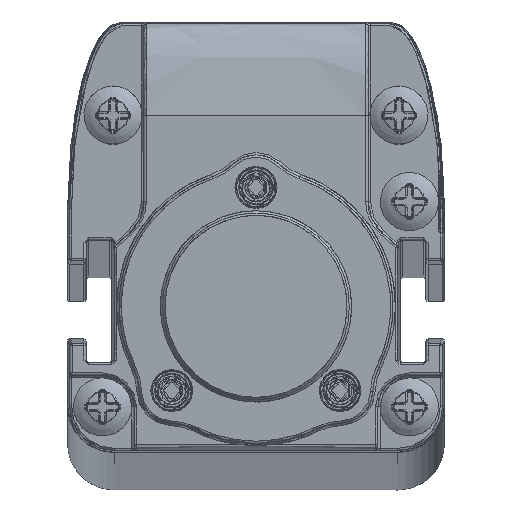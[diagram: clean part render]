
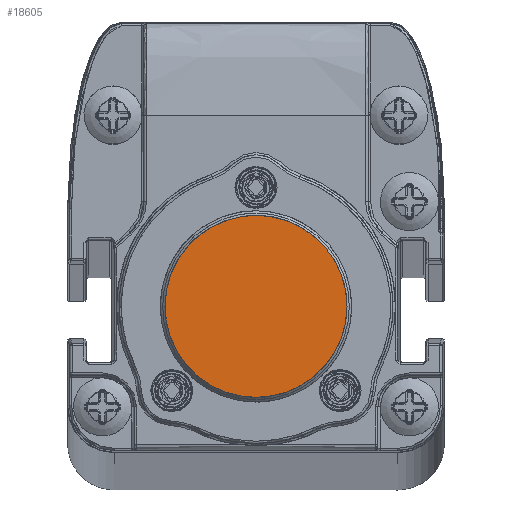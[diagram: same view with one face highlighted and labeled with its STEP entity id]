
A CAD part, top view. The second image highlights one B-rep face of the part: STEP entity #18605.
In plain terms, the highlighted planar face has unit normal (0, 0, 1).
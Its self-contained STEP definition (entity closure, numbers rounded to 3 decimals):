
#15785=B_SPLINE_CURVE_WITH_KNOTS('',3,(#63289,#63290,#63291,#63292,#63293,
#63294,#63295,#63296,#63297,#63298,#63299,#63300,#63301,#63302,#63303,#63304,
#63305,#63306,#63307,#63308,#63309,#63310,#63311,#63312,#63313,#63314,#63315,
#63316,#63317,#63318,#63319,#63320,#63321,#63322,#63323,#63324,#63325,#63326,
#63327,#63328,#63329,#63330,#63331,#63332,#63333,#63334,#63335,#63336,#63337,
#63338,#63339,#63340,#63341,#63342,#63343,#63344,#63345,#63346,#63347,#63348,
#63349,#63350,#63351,#63352,#63353,#63354,#63355,#63356,#63357,#63358,#63359,
#63360,#63361,#63362,#63363,#63364,#63365,#63366,#63367,#63368,#63369,#63370,
#63371,#63372,#63373,#63374,#63375,#63376,#63377,#63378,#63379,#63380,#63381,
#63382,#63383,#63384,#63385,#63386,#63387,#63388,#63389,#63390,#63391),
 .UNSPECIFIED.,.T.,.F.,(1,3,3,3,3,3,3,3,3,3,3,3,3,3,3,3,3,3,3,3,3,3,3,3,
3,3,3,3,3,3,3,3,3,3,3,3,1),(-0.029,0.,0.029,0.059,
0.088,0.118,0.147,0.176,
0.206,0.235,0.265,0.294,
0.324,0.353,0.382,0.412,
0.441,0.471,0.5,0.529,0.559,
0.588,0.618,0.647,0.676,
0.706,0.735,0.765,0.794,
0.824,0.853,0.882,0.912,
0.941,0.971,1.,1.029),.UNSPECIFIED.);
#18605=ADVANCED_FACE('',(#20651),#19581,.T.);
#19581=PLANE('',#44389);
#20651=FACE_OUTER_BOUND('',#22074,.T.);
#22074=EDGE_LOOP('',(#28424));
#28424=ORIENTED_EDGE('',*,*,#37638,.T.);
#32607=VERTEX_POINT('',#63392);
#37638=EDGE_CURVE('',#32607,#32607,#15785,.T.);
#44389=AXIS2_PLACEMENT_3D('',#63393,#48295,#48296);
#48295=DIRECTION('',(0.,0.,1.));
#48296=DIRECTION('',(1.,0.,0.));
#63289=CARTESIAN_POINT('',(7.8,0.,1883.34));
#63290=CARTESIAN_POINT('',(7.8,0.465,1883.34));
#63291=CARTESIAN_POINT('',(7.759,0.925,1883.34));
#63292=CARTESIAN_POINT('',(7.679,1.376,1883.34));
#63293=CARTESIAN_POINT('',(7.638,1.601,1883.34));
#63294=CARTESIAN_POINT('',(7.588,1.825,1883.34));
#63295=CARTESIAN_POINT('',(7.527,2.047,1883.34));
#63296=CARTESIAN_POINT('',(7.466,2.269,1883.34));
#63297=CARTESIAN_POINT('',(7.407,2.458,1883.34));
#63298=CARTESIAN_POINT('',(7.315,2.708,1883.34));
#63299=CARTESIAN_POINT('',(7.129,3.209,1883.34));
#63300=CARTESIAN_POINT('',(6.898,3.683,1883.34));
#63301=CARTESIAN_POINT('',(6.62,4.128,1883.34));
#63302=CARTESIAN_POINT('',(6.343,4.573,1883.34));
#63303=CARTESIAN_POINT('',(6.043,4.965,1883.34));
#63304=CARTESIAN_POINT('',(5.651,5.376,1883.34));
#63305=CARTESIAN_POINT('',(4.868,6.2,1883.34));
#63306=CARTESIAN_POINT('',(3.912,6.837,1883.34));
#63307=CARTESIAN_POINT('',(2.89,7.245,1883.34));
#63308=CARTESIAN_POINT('',(2.378,7.449,1883.34));
#63309=CARTESIAN_POINT('',(1.856,7.597,1883.34));
#63310=CARTESIAN_POINT('',(1.324,7.689,1883.34));
#63311=CARTESIAN_POINT('',(1.058,7.734,1883.34));
#63312=CARTESIAN_POINT('',(0.79,7.766,1883.34));
#63313=CARTESIAN_POINT('',(0.52,7.784,1883.34));
#63314=CARTESIAN_POINT('',(0.249,7.801,1883.34));
#63315=CARTESIAN_POINT('',(-0.055,7.804,1883.34));
#63316=CARTESIAN_POINT('',(-0.3,7.794,1883.34));
#63317=CARTESIAN_POINT('',(-0.79,7.775,1883.34));
#63318=CARTESIAN_POINT('',(-1.271,7.712,1883.34));
#63319=CARTESIAN_POINT('',(-1.742,7.604,1883.34));
#63320=CARTESIAN_POINT('',(-2.213,7.496,1883.34));
#63321=CARTESIAN_POINT('',(-2.713,7.327,1883.34));
#63322=CARTESIAN_POINT('',(-3.123,7.147,1883.34));
#63323=CARTESIAN_POINT('',(-3.534,6.968,1883.34));
#63324=CARTESIAN_POINT('',(-3.924,6.757,1883.34));
#63325=CARTESIAN_POINT('',(-4.293,6.513,1883.34));
#63326=CARTESIAN_POINT('',(-4.477,6.392,1883.34));
#63327=CARTESIAN_POINT('',(-4.656,6.262,1883.34));
#63328=CARTESIAN_POINT('',(-4.83,6.125,1883.34));
#63329=CARTESIAN_POINT('',(-5.004,5.987,1883.34));
#63330=CARTESIAN_POINT('',(-5.15,5.864,1883.34));
#63331=CARTESIAN_POINT('',(-5.337,5.688,1883.34));
#63332=CARTESIAN_POINT('',(-5.712,5.337,1883.34));
#63333=CARTESIAN_POINT('',(-6.047,4.956,1883.34));
#63334=CARTESIAN_POINT('',(-6.341,4.545,1883.34));
#63335=CARTESIAN_POINT('',(-6.635,4.134,1883.34));
#63336=CARTESIAN_POINT('',(-6.869,3.738,1883.34));
#63337=CARTESIAN_POINT('',(-7.102,3.226,1883.34));
#63338=CARTESIAN_POINT('',(-7.567,2.203,1883.34));
#63339=CARTESIAN_POINT('',(-7.8,1.124,1883.34));
#63340=CARTESIAN_POINT('',(-7.8,0.,1883.34));
#63341=CARTESIAN_POINT('',(-7.8,-0.562,1883.34));
#63342=CARTESIAN_POINT('',(-7.742,-1.113,1883.34));
#63343=CARTESIAN_POINT('',(-7.626,-1.651,1883.34));
#63344=CARTESIAN_POINT('',(-7.509,-2.189,1883.34));
#63345=CARTESIAN_POINT('',(-7.314,-2.758,1883.34));
#63346=CARTESIAN_POINT('',(-7.102,-3.226,1883.34));
#63347=CARTESIAN_POINT('',(-6.889,-3.694,1883.34));
#63348=CARTESIAN_POINT('',(-6.636,-4.134,1883.34));
#63349=CARTESIAN_POINT('',(-6.341,-4.544,1883.34));
#63350=CARTESIAN_POINT('',(-6.194,-4.75,1883.34));
#63351=CARTESIAN_POINT('',(-6.037,-4.947,1883.34));
#63352=CARTESIAN_POINT('',(-5.87,-5.138,1883.34));
#63353=CARTESIAN_POINT('',(-5.702,-5.329,1883.34));
#63354=CARTESIAN_POINT('',(-5.5,-5.535,1883.34));
#63355=CARTESIAN_POINT('',(-5.337,-5.688,1883.34));
#63356=CARTESIAN_POINT('',(-5.01,-5.995,1883.34));
#63357=CARTESIAN_POINT('',(-4.662,-6.27,1883.34));
#63358=CARTESIAN_POINT('',(-4.293,-6.513,1883.34));
#63359=CARTESIAN_POINT('',(-3.924,-6.756,1883.34));
#63360=CARTESIAN_POINT('',(-3.573,-6.951,1883.34));
#63361=CARTESIAN_POINT('',(-3.123,-7.147,1883.34));
#63362=CARTESIAN_POINT('',(-2.674,-7.344,1883.34));
#63363=CARTESIAN_POINT('',(-2.213,-7.496,1883.34));
#63364=CARTESIAN_POINT('',(-1.743,-7.604,1883.34));
#63365=CARTESIAN_POINT('',(-1.507,-7.658,1883.34));
#63366=CARTESIAN_POINT('',(-1.27,-7.701,1883.34));
#63367=CARTESIAN_POINT('',(-1.029,-7.732,1883.34));
#63368=CARTESIAN_POINT('',(-0.789,-7.764,1883.34));
#63369=CARTESIAN_POINT('',(-0.575,-7.784,1883.34));
#63370=CARTESIAN_POINT('',(-0.3,-7.794,1883.34));
#63371=CARTESIAN_POINT('',(0.801,-7.837,1883.34));
#63372=CARTESIAN_POINT('',(1.834,-7.666,1883.34));
#63373=CARTESIAN_POINT('',(2.89,-7.245,1883.34));
#63374=CARTESIAN_POINT('',(3.417,-7.035,1883.34));
#63375=CARTESIAN_POINT('',(3.912,-6.774,1883.34));
#63376=CARTESIAN_POINT('',(4.372,-6.462,1883.34));
#63377=CARTESIAN_POINT('',(4.833,-6.15,1883.34));
#63378=CARTESIAN_POINT('',(5.283,-5.763,1883.34));
#63379=CARTESIAN_POINT('',(5.651,-5.376,1883.34));
#63380=CARTESIAN_POINT('',(6.019,-4.989,1883.34));
#63381=CARTESIAN_POINT('',(6.342,-4.573,1883.34));
#63382=CARTESIAN_POINT('',(6.62,-4.128,1883.34));
#63383=CARTESIAN_POINT('',(6.759,-3.906,1883.34));
#63384=CARTESIAN_POINT('',(6.886,-3.676,1883.34));
#63385=CARTESIAN_POINT('',(7.002,-3.44,1883.34));
#63386=CARTESIAN_POINT('',(7.117,-3.203,1883.34));
#63387=CARTESIAN_POINT('',(7.234,-2.926,1883.34));
#63388=CARTESIAN_POINT('',(7.315,-2.708,1883.34));
#63389=CARTESIAN_POINT('',(7.638,-1.835,1883.34));
#63390=CARTESIAN_POINT('',(7.8,-0.933,1883.34));
#63391=CARTESIAN_POINT('',(7.8,0.,1883.34));
#63392=CARTESIAN_POINT('',(7.8,0.,1883.34));
#63393=CARTESIAN_POINT('',(-8.9,-8.81,1883.34));
